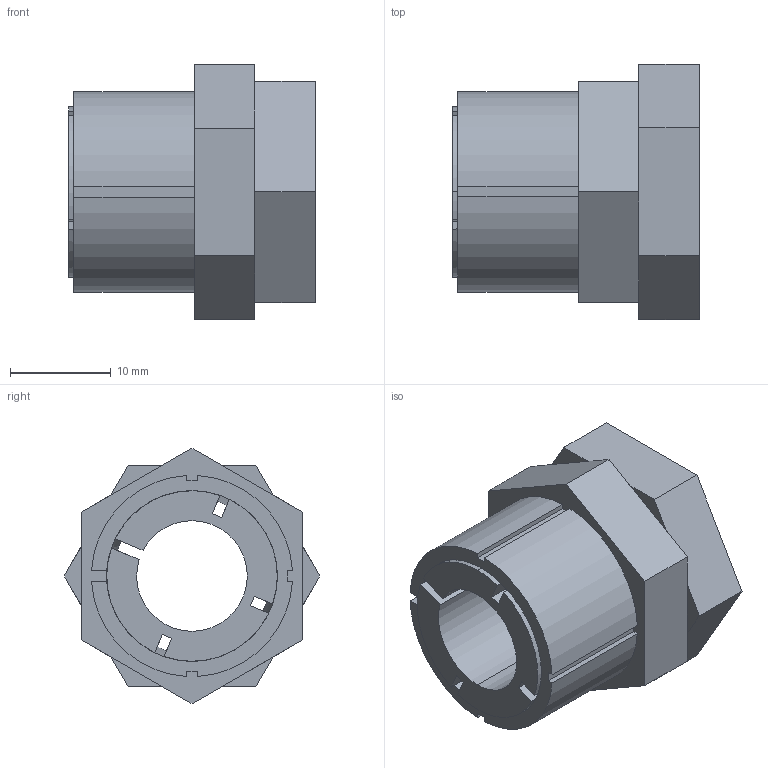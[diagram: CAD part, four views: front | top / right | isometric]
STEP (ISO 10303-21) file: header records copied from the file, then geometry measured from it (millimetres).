
FILE_DESCRIPTION (( 'STEP AP203' ), '1' );
FILE_NAME ('KBS 59 - 10 x 20.STEP', '2015-07-07T21:01:17', ( '' ), ( '' ), 'SwSTEP 2.0', 'SolidWorks 2010', '' );
FILE_SCHEMA (( 'CONFIG_CONTROL_DESIGN' ));
Length unit declared in the file: millimetre
Products named in the file (1): KBS 59 - 10 x 20
Bounding box: 24.5 x 25.4 x 25.4 mm (x, y, z)
Volume: 6240.9 mm3; surface area: 6333.1 mm2
Topology: 3 solids, 3 shells, 78 faces, 204 edges, 132 vertices
Faces by surface type: plane 56, cylinder 14, cone 8
Entity records: 2469 total; most frequent: CARTESIAN_POINT 451, ORIENTED_EDGE 408, DIRECTION 396, EDGE_CURVE 204, LINE 150, VECTOR 150, VERTEX_POINT 132, AXIS2_PLACEMENT_3D 123
